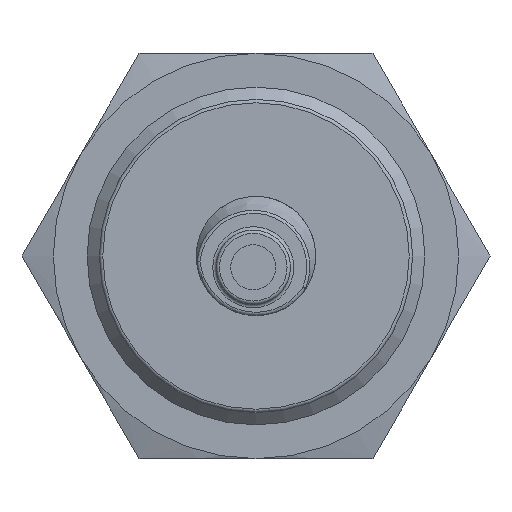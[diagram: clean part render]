
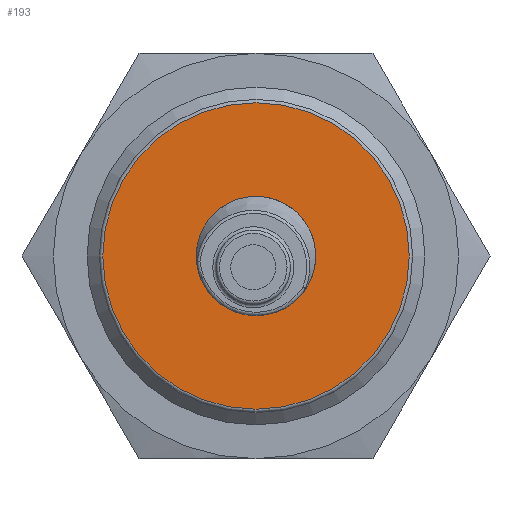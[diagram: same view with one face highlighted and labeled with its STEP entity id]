
A CAD part, left-side view. The second image highlights one B-rep face of the part: STEP entity #193.
In plain terms, the highlighted planar face has unit normal (-1, 0, 0).
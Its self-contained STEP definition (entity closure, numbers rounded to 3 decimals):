
#193 = ADVANCED_FACE( '', ( #260, #261 ), #262, .F. );
#260 = FACE_OUTER_BOUND( '', #376, .T. );
#261 = FACE_BOUND( '', #377, .T. );
#262 = PLANE( '', #378 );
#376 = EDGE_LOOP( '', ( #528 ) );
#377 = EDGE_LOOP( '', ( #529 ) );
#378 = AXIS2_PLACEMENT_3D( '', #530, #531, #532 );
#528 = ORIENTED_EDGE( '', *, *, #761, .F. );
#529 = ORIENTED_EDGE( '', *, *, #756, .T. );
#530 = CARTESIAN_POINT( '', ( 8., 5.3, 0. ) );
#531 = DIRECTION( '', ( 1., 0., 0. ) );
#532 = DIRECTION( '', ( 0., 0., -1. ) );
#756 = EDGE_CURVE( '', #838, #838, #839, .T. );
#761 = EDGE_CURVE( '', #848, #848, #849, .T. );
#838 = VERTEX_POINT( '', #1028 );
#839 = CIRCLE( '', #1029, 5.3 );
#848 = VERTEX_POINT( '', #1038 );
#849 = CIRCLE( '', #1039, 13.61 );
#1028 = CARTESIAN_POINT( '', ( 8., 0., -5.3 ) );
#1029 = AXIS2_PLACEMENT_3D( '', #1279, #1280, #1281 );
#1038 = CARTESIAN_POINT( '', ( 8., 0., -13.61 ) );
#1039 = AXIS2_PLACEMENT_3D( '', #1294, #1295, #1296 );
#1279 = CARTESIAN_POINT( '', ( 8., 0., 0. ) );
#1280 = DIRECTION( '', ( 1., 0., 0. ) );
#1281 = DIRECTION( '', ( 0., 0., -1. ) );
#1294 = CARTESIAN_POINT( '', ( 8., 0., 0. ) );
#1295 = DIRECTION( '', ( 1., 0., 0. ) );
#1296 = DIRECTION( '', ( 0., 0., -1. ) );
